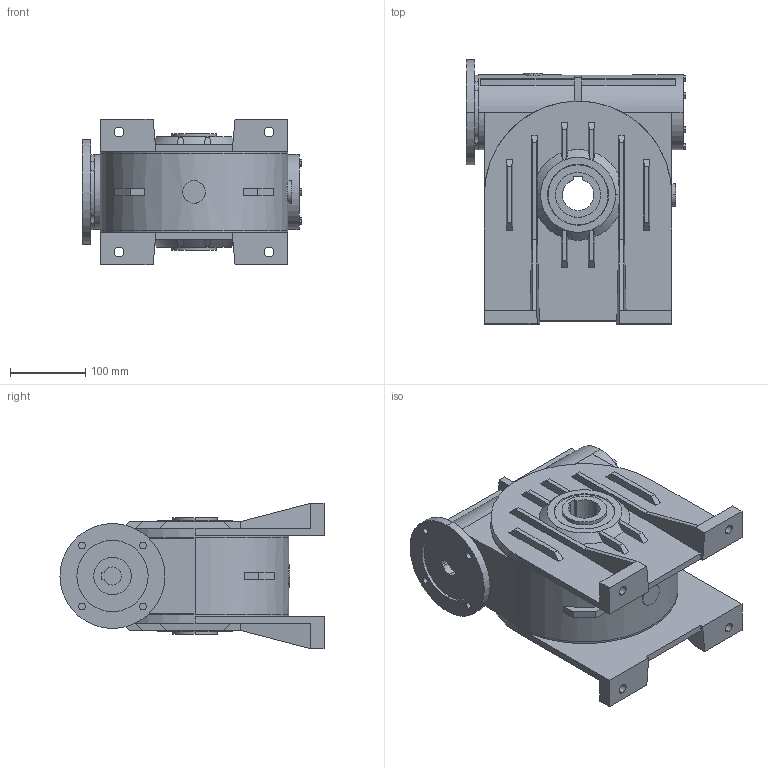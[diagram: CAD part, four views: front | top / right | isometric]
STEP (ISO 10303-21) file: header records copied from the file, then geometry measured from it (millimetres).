
FILE_DESCRIPTION (( 'STEP AP214' ), '1' );
FILE_NAME ('MI 110 NO PAM90B14 NO 0 FEET 0 A 0 0 NO 0.step', '2019-01-10T08:41:06', ( '' ), ( '' ), 'SwSTEP 2.0', 'SolidWorks 2015', '' );
FILE_SCHEMA (( 'AUTOMOTIVE_DESIGN' ));
Length unit declared in the file: millimetre
Products named in the file (7): PAM MI 110_PAM 90 B14; 20004044 - FEET I-MI110; FAM MI 110_D.140; MI 110 NO PAM90B14 NO 0 FEET 0 A 0 0 NO 0; INPUT SHAFT MI 110_F.24; ALBERO USCITA I-MI_I-MI110; 20004043 - BODY I-MI 110
Assembly tree (7 placements, depth 3):
  MI 110 NO PAM90B14 NO 0 FEET 0 A 0 0 NO 0
    20004043 - BODY I-MI 110
    ALBERO USCITA I-MI_I-MI110
    PAM MI 110_PAM 90 B14
      FAM MI 110_D.140
      INPUT SHAFT MI 110_F.24
    20004044 - FEET I-MI110  x2
Bounding box: 292.5 x 352 x 194 mm (x, y, z)
Volume: 8381692 mm3; surface area: 776886 mm2
Topology: 6 solids, 14 shells, 375 faces, 966 edges, 618 vertices
Faces by surface type: plane 241, cylinder 102, cone 32
Entity records: 10752 total; most frequent: CARTESIAN_POINT 2422, DIRECTION 1594, ORIENTED_EDGE 1528, EDGE_CURVE 764, AXIS2_PLACEMENT_3D 548, VERTEX_POINT 502, VECTOR 498, LINE 498
